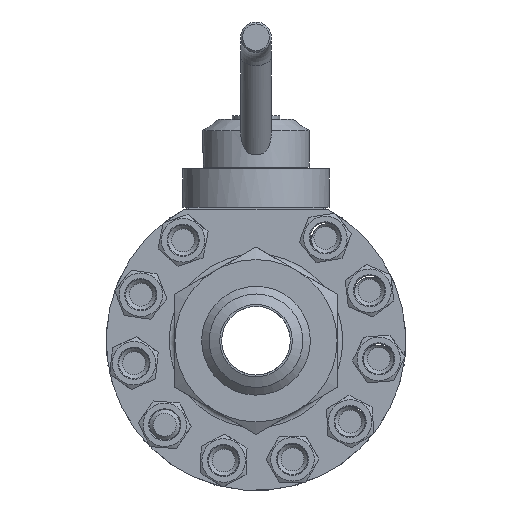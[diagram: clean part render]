
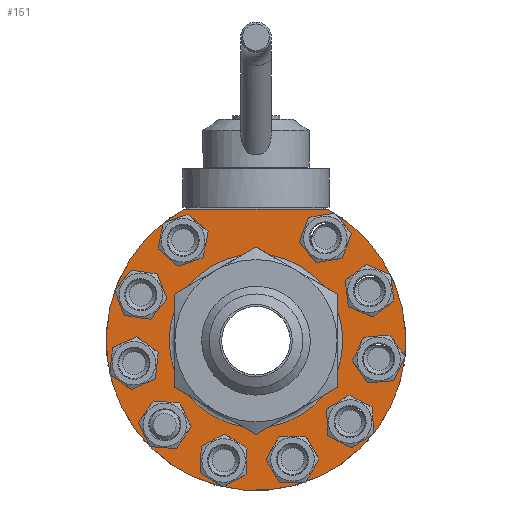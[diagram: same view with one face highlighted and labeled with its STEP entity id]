
A CAD part, left-side view. The second image highlights one B-rep face of the part: STEP entity #151.
In plain terms, the highlighted planar face has unit normal (-1, 0, 0).
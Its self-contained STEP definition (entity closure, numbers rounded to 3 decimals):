
#151=ADVANCED_FACE('',(#3548,#3550,#3552,#3554,#3556,#3558,#3560,#3562,#3564,#3566,
#3568,#3570),#3572,.T.);
#3548=FACE_BOUND('',#3549,.T.);
#3549=EDGE_LOOP('',(#8774));
#3550=FACE_BOUND('',#3551,.T.);
#3551=EDGE_LOOP('',(#8775));
#3552=FACE_BOUND('',#3553,.T.);
#3553=EDGE_LOOP('',(#8776));
#3554=FACE_BOUND('',#3555,.T.);
#3555=EDGE_LOOP('',(#8777));
#3556=FACE_BOUND('',#3557,.T.);
#3557=EDGE_LOOP('',(#8778));
#3558=FACE_BOUND('',#3559,.T.);
#3559=EDGE_LOOP('',(#8779));
#3560=FACE_BOUND('',#3561,.T.);
#3561=EDGE_LOOP('',(#8780));
#3562=FACE_BOUND('',#3563,.T.);
#3563=EDGE_LOOP('',(#8781));
#3564=FACE_BOUND('',#3565,.T.);
#3565=EDGE_LOOP('',(#8782));
#3566=FACE_BOUND('',#3567,.T.);
#3567=EDGE_LOOP('',(#8783));
#3568=FACE_BOUND('',#3569,.T.);
#3569=EDGE_LOOP('',(#8784));
#3570=FACE_OUTER_BOUND('',#3571,.T.);
#3571=EDGE_LOOP('',(#8785,#8786));
#3572=PLANE('',#3573);
#3573=AXIS2_PLACEMENT_3D('',#3574,#3575,#3576);
#3574=CARTESIAN_POINT('',(-57.5,0.,0.));
#3575=DIRECTION('',(-1.,0.,0.));
#3576=DIRECTION('',(0.,0.,-1.));
#8774=ORIENTED_EDGE('',*,*,#14262,.T.);
#8775=ORIENTED_EDGE('',*,*,#14263,.T.);
#8776=ORIENTED_EDGE('',*,*,#14264,.T.);
#8777=ORIENTED_EDGE('',*,*,#14265,.T.);
#8778=ORIENTED_EDGE('',*,*,#14266,.T.);
#8779=ORIENTED_EDGE('',*,*,#14233,.T.);
#8780=ORIENTED_EDGE('',*,*,#14267,.T.);
#8781=ORIENTED_EDGE('',*,*,#14268,.T.);
#8782=ORIENTED_EDGE('',*,*,#14269,.F.);
#8783=ORIENTED_EDGE('',*,*,#14270,.T.);
#8784=ORIENTED_EDGE('',*,*,#14271,.T.);
#8785=ORIENTED_EDGE('',*,*,#14272,.T.);
#8786=ORIENTED_EDGE('',*,*,#14273,.F.);
#14233=EDGE_CURVE('',#15750,#15750,#15751,.T.);
#14262=EDGE_CURVE('',#15800,#15800,#15801,.F.);
#14263=EDGE_CURVE('',#15802,#15802,#15803,.F.);
#14264=EDGE_CURVE('',#15804,#15804,#15805,.F.);
#14265=EDGE_CURVE('',#15806,#15806,#15807,.F.);
#14266=EDGE_CURVE('',#15808,#15808,#15809,.F.);
#14267=EDGE_CURVE('',#15810,#15810,#15811,.F.);
#14268=EDGE_CURVE('',#15812,#15812,#15813,.F.);
#14269=EDGE_CURVE('',#15814,#15814,#15815,.T.);
#14270=EDGE_CURVE('',#15816,#15816,#15817,.F.);
#14271=EDGE_CURVE('',#15818,#15818,#15819,.F.);
#14272=EDGE_CURVE('',#15820,#15821,#15822,.F.);
#14273=EDGE_CURVE('',#15820,#15821,#15823,.T.);
#15750=VERTEX_POINT('',#18655);
#15751=CIRCLE('',#18656,45.5);
#15800=VERTEX_POINT('',#19044);
#15801=CIRCLE('',#19045,11.4);
#15802=VERTEX_POINT('',#19049);
#15803=CIRCLE('',#19050,11.4);
#15804=VERTEX_POINT('',#19054);
#15805=CIRCLE('',#19055,11.4);
#15806=VERTEX_POINT('',#19059);
#15807=CIRCLE('',#19060,11.4);
#15808=VERTEX_POINT('',#19064);
#15809=CIRCLE('',#19065,11.4);
#15810=VERTEX_POINT('',#19069);
#15811=CIRCLE('',#19070,11.4);
#15812=VERTEX_POINT('',#19074);
#15813=CIRCLE('',#19075,11.4);
#15814=VERTEX_POINT('',#19079);
#15815=CIRCLE('',#19080,11.4);
#15816=VERTEX_POINT('',#19084);
#15817=CIRCLE('',#19085,11.4);
#15818=VERTEX_POINT('',#19089);
#15819=CIRCLE('',#19090,11.4);
#15820=VERTEX_POINT('',#19094);
#15821=VERTEX_POINT('',#19095);
#15822=LINE('',#19096,#19097);
#15823=CIRCLE('',#19099,78.5);
#18655=CARTESIAN_POINT('',(-57.5,0.,-45.5));
#18656=AXIS2_PLACEMENT_3D('',#18657,#18658,#18659);
#18657=CARTESIAN_POINT('',(-57.5,0.,0.));
#18658=DIRECTION('',(1.,0.,0.));
#18659=DIRECTION('',(0.,0.,-1.));
#19044=CARTESIAN_POINT('',(-57.5,-32.288,43.235));
#19045=AXIS2_PLACEMENT_3D('',#19046,#19047,#19048);
#19046=CARTESIAN_POINT('',(-57.5,-36.348,53.887));
#19047=DIRECTION('',(-1.,0.,0.));
#19048=DIRECTION('',(0.,0.356,-0.934));
#19049=CARTESIAN_POINT('',(-57.5,-39.194,-37.089));
#19050=AXIS2_PLACEMENT_3D('',#19051,#19052,#19053);
#19051=CARTESIAN_POINT('',(-57.5,-49.303,-42.358));
#19052=DIRECTION('',(-1.,0.,0.));
#19053=DIRECTION('',(0.,0.887,0.462));
#19054=CARTESIAN_POINT('',(-57.5,16.553,-51.359));
#19055=AXIS2_PLACEMENT_3D('',#19056,#19057,#19058);
#19056=CARTESIAN_POINT('',(-57.5,16.945,-62.752));
#19057=DIRECTION('',(-1.,0.,0.));
#19058=DIRECTION('',(0.,-0.034,0.999));
#19059=CARTESIAN_POINT('',(-57.5,53.475,-7.222));
#19060=AXIS2_PLACEMENT_3D('',#19061,#19062,#19063);
#19061=CARTESIAN_POINT('',(-57.5,63.923,-11.783));
#19062=DIRECTION('',(-1.,0.,0.));
#19063=DIRECTION('',(0.,-0.916,0.4));
#19064=CARTESIAN_POINT('',(-57.5,29.584,45.128));
#19065=AXIS2_PLACEMENT_3D('',#19066,#19067,#19068);
#19066=CARTESIAN_POINT('',(-57.5,38.206,52.586));
#19067=DIRECTION('',(-1.,0.,0.));
#19068=DIRECTION('',(0.,-0.756,-0.654));
#19069=CARTESIAN_POINT('',(-57.5,49.09,22.403));
#19070=AXIS2_PLACEMENT_3D('',#19071,#19072,#19073);
#19071=CARTESIAN_POINT('',(-57.5,60.361,24.116));
#19072=DIRECTION('',(-1.,0.,0.));
#19073=DIRECTION('',(0.,-0.989,-0.15));
#19074=CARTESIAN_POINT('',(-57.5,41.388,-34.623));
#19075=AXIS2_PLACEMENT_3D('',#19076,#19077,#19078);
#19076=CARTESIAN_POINT('',(-57.5,47.795,-44.053));
#19077=DIRECTION('',(-1.,0.,0.));
#19078=DIRECTION('',(0.,-0.562,0.827));
#19079=CARTESIAN_POINT('',(-57.5,-13.381,-52.275));
#19080=AXIS2_PLACEMENT_3D('',#19081,#19082,#19083);
#19081=CARTESIAN_POINT('',(-57.5,-19.125,-62.123));
#19082=DIRECTION('',(-1.,0.,0.));
#19083=DIRECTION('',(0.,0.504,0.864));
#19084=CARTESIAN_POINT('',(-57.5,-52.934,-10.479));
#19085=AXIS2_PLACEMENT_3D('',#19086,#19087,#19088);
#19086=CARTESIAN_POINT('',(-57.5,-64.295,-9.545));
#19087=DIRECTION('',(-1.,0.,0.));
#19088=DIRECTION('',(0.,0.997,-0.082));
#19089=CARTESIAN_POINT('',(-57.5,-50.368,19.36));
#19090=AXIS2_PLACEMENT_3D('',#19091,#19092,#19093);
#19091=CARTESIAN_POINT('',(-57.5,-59.483,26.207));
#19092=DIRECTION('',(-1.,0.,0.));
#19093=DIRECTION('',(0.,0.799,-0.601));
#19094=CARTESIAN_POINT('',(-57.5,-37.433,69.));
#19095=CARTESIAN_POINT('',(-57.5,37.433,69.));
#19096=CARTESIAN_POINT('',(-57.5,37.433,69.));
#19097=VECTOR('',#19098,1.);
#19098=DIRECTION('',(0.,-1.,0.));
#19099=AXIS2_PLACEMENT_3D('',#19100,#19101,#19102);
#19100=CARTESIAN_POINT('',(-57.5,0.,0.));
#19101=DIRECTION('',(1.,0.,0.));
#19102=DIRECTION('',(0.,-0.477,0.879));
